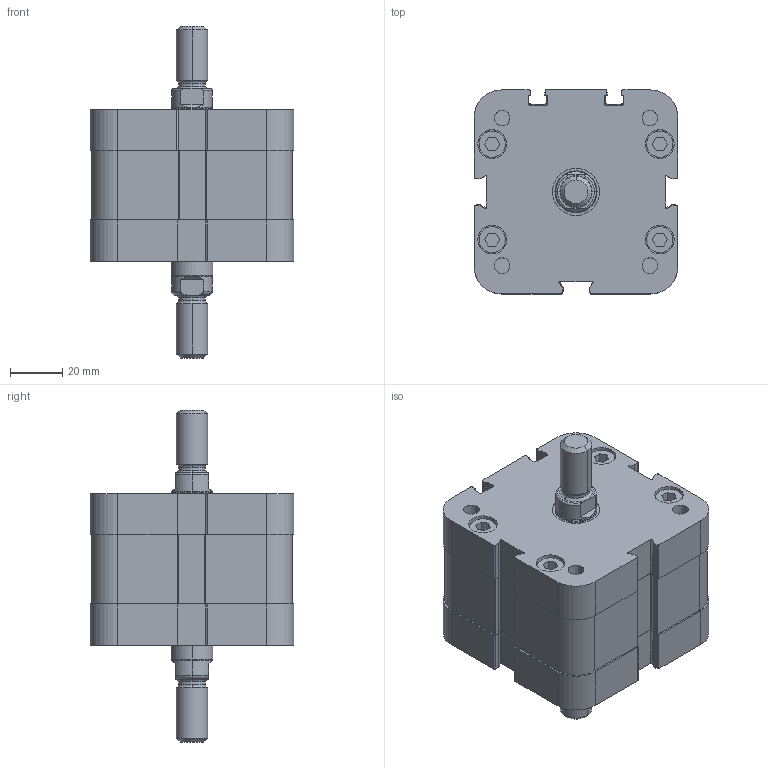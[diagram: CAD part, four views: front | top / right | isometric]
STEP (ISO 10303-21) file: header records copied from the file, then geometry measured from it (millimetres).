
FILE_DESCRIPTION((''),'2;1');
FILE_NAME('P31M40630005.stp','2010-02-28T18:35:15',('B. Petkovic 2010'),('AZ PNEUMATICA S.r.l.'),'Mechanical Desktop 2006','Mechanical Desktop 2006','Via Marco Biagi 6, I-20020 Misinto(MI) Italy, azpneu@tin.it');
FILE_SCHEMA(('CONFIG_CONTROL_DESIGN'));
Length unit declared in the file: millimetre
Products named in the file (2): P31M40630005; COMPACT CILINDRI
Assembly tree (1 placements, depth 2):
  P31M40630005
    COMPACT CILINDRI
Bounding box: 78 x 78 x 127 mm (x, y, z)
Volume: 332125.3 mm3; surface area: 41813.4 mm2
Topology: 1 solids, 1 shells, 438 faces, 1128 edges, 734 vertices
Faces by surface type: plane 250, cylinder 162, cone 12, bspline 8, torus 6
Entity records: 13952 total; most frequent: CARTESIAN_POINT 2822, DIRECTION 2393, ORIENTED_EDGE 2256, EDGE_CURVE 1128, AXIS2_PLACEMENT_3D 839, VERTEX_POINT 734, VECTOR 715, LINE 715
